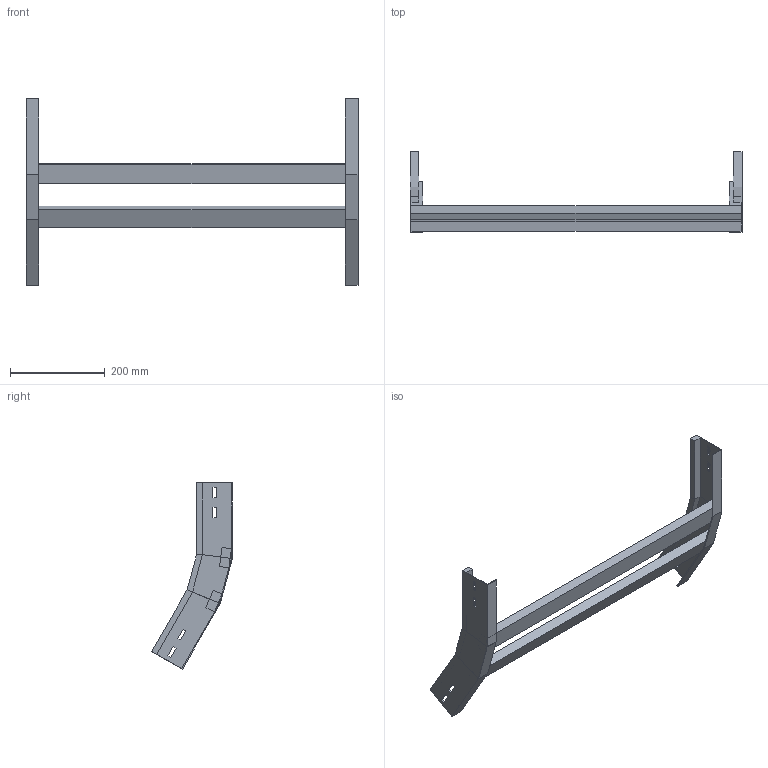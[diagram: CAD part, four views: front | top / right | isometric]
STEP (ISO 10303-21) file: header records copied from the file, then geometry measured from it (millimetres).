
FILE_DESCRIPTION (( 'STEP AP214' ), '1' );
FILE_NAME ('A2X32B3C700XX.step', '2025-03-20T10:01:43', ( '' ), ( '' ), 'SwSTEP 2.0', 'SolidWorks 2023', '' );
FILE_SCHEMA (( 'AUTOMOTIVE_DESIGN' ));
Length unit declared in the file: millimetre
Products named in the file (3): TRAVERSINO_700; A2X32B3C700XX; LONGH.SALITA_30°_H75_R300
Assembly tree (4 placements, depth 2):
  A2X32B3C700XX
    LONGH.SALITA_30°_H75_R300  x2
    TRAVERSINO_700  x2
Bounding box: 700 x 170.24 x 392.95 mm (x, y, z)
Volume: 1432602.7 mm3; surface area: 360397.9 mm2
Topology: 4 solids, 4 shells, 96 faces, 232 edges, 144 vertices
Faces by surface type: plane 96
Entity records: 1472 total; most frequent: CARTESIAN_POINT 243, ORIENTED_EDGE 232, DIRECTION 226, LINE 116, EDGE_CURVE 116, VECTOR 116, VERTEX_POINT 72, EDGE_LOOP 56
